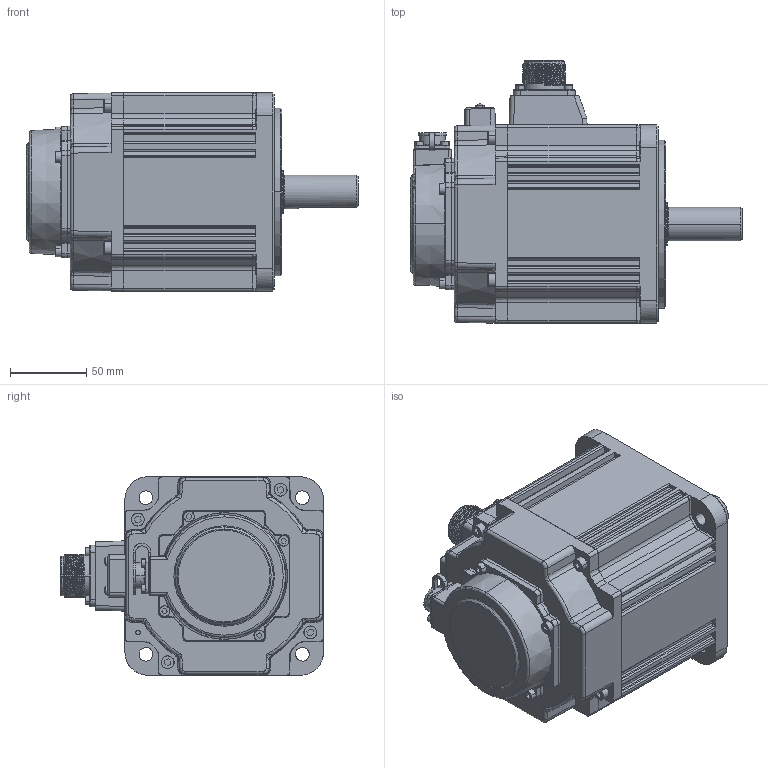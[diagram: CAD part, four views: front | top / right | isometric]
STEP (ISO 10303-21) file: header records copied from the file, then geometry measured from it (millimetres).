
FILE_DESCRIPTION (( 'STEP AP203' ), '1' );
FILE_NAME ('MS6G-130CN15BZ2-40P8.STEP', '2024-05-07T05:50:55', ( '' ), ( '' ), 'SwSTEP 2.0', 'SolidWorks 2022', '' );
FILE_SCHEMA (( 'CONFIG_CONTROL_DESIGN' ));
Products named in the file (1): MS6G-130CN15BZ2-40P8
Bounding box: 217.5 x 172.1 x 130 mm (x, y, z)
Surface area: 146049.4 mm2 (no closed solid volume)
Topology: 0 solids, 32 shells, 948 faces, 3174 edges, 2192 vertices
Faces by surface type: plane 359, cylinder 298, bspline 121, torus 93, cone 72, sphere 5
Entity records: 43933 total; most frequent: CARTESIAN_POINT 18158, ORIENTED_EDGE 5299, DIRECTION 4945, EDGE_CURVE 3156, VERTEX_POINT 2192, AXIS2_PLACEMENT_3D 1822, LINE 1301, VECTOR 1301
